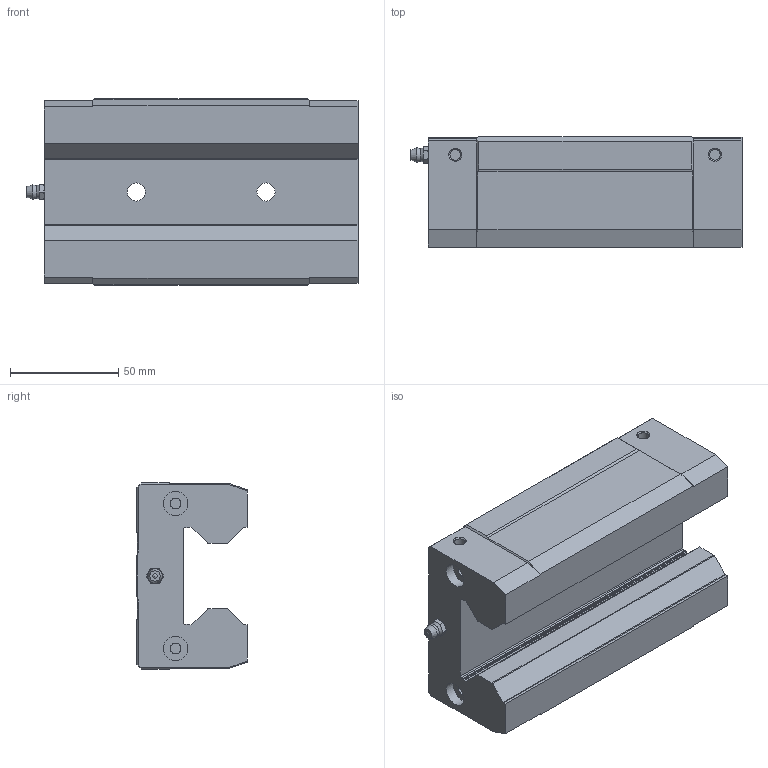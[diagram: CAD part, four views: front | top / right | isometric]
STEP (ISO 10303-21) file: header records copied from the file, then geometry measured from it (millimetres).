
FILE_DESCRIPTION(/* description */ ('STEP AP214'),/* implementation_level */ '2;1');
FILE_NAME(/* name */ 'ERG45P6VC1N0______CAD_NO_(A-MT61)',/* time_stamp */ '2026-05-18T11:24:58+02:00',/* author */ ('License CC BY-ND 4.0'),/* organization */ ('CADENAS'),/* preprocessor_version */ 'ST-DEVELOPER v20',/* originating_system */ 'PARTsolutions',/* authorisation */ ' ');
FILE_SCHEMA (('AUTOMOTIVE_DESIGN {1 0 10303 214 3 1 1}'));
Length unit declared in the file: millimetre
Products named in the file (3): ERG45P6VC1N0______CAD_NO_(A-MT61); ERG45V01 Slider; hsr_ftht_A-M6F_grease_nipple_joint
Assembly tree (2 placements, depth 2):
  ERG45P6VC1N0______CAD_NO_(A-MT61)
    ERG45V01 Slider
    hsr_ftht_A-M6F_grease_nipple_joint
Bounding box: 153.41 x 51 x 86 mm (x, y, z)
Volume: 454321.8 mm3; surface area: 61137.7 mm2
Topology: 2 solids, 2 shells, 166 faces, 409 edges, 264 vertices
Faces by surface type: plane 95, cylinder 43, cone 25, sphere 2, torus 1
Full cylindrical faces by diameter (mm): 4.917 x6, 5 x4, 6 x1, 8.376 x6, 10.2 x2, 11.3 x4
Entity records: 4667 total; most frequent: CARTESIAN_POINT 851, DIRECTION 776, ORIENTED_EDGE 704, EDGE_CURVE 352, AXIS2_PLACEMENT_3D 279, VERTEX_POINT 256, FACE_BOUND 236, EDGE_LOOP 232
